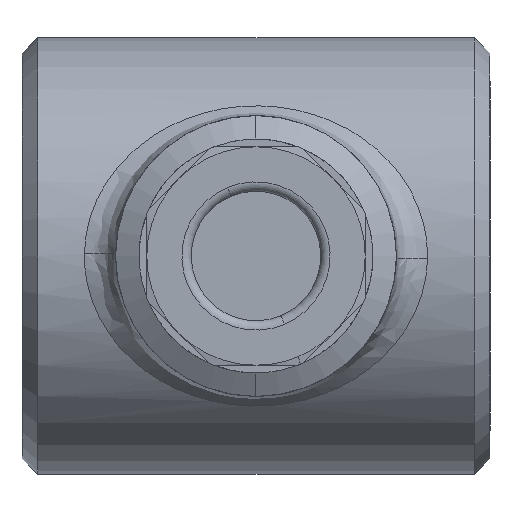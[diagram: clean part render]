
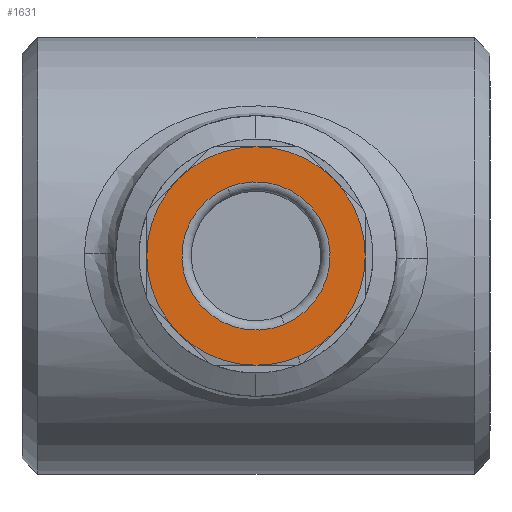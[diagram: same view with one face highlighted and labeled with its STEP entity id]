
A CAD part, left-side view. The second image highlights one B-rep face of the part: STEP entity #1631.
In plain terms, the highlighted planar face has unit normal (-1, 0, 0).
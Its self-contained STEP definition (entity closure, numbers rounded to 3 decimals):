
#222 = PLANE ( 'NONE',  #1791 ) ;
#229 = CARTESIAN_POINT ( 'NONE',  ( -21.5, 11.734, -1.339 ) ) ;
#230 = DIRECTION ( 'NONE',  ( -1., 0., 0. ) ) ;
#231 = DIRECTION ( 'NONE',  ( 0., 0.383, 0.924 ) ) ;
#658 = CARTESIAN_POINT ( 'NONE',  ( -21.5, 8.5, 0. ) ) ;
#660 = DIRECTION ( 'NONE',  ( 1., 0., 0. ) ) ;
#662 = DIRECTION ( 'NONE',  ( 0., -0.383, -0.924 ) ) ;
#666 = CARTESIAN_POINT ( 'NONE',  ( -21.5, 8.5, 0. ) ) ;
#668 = DIRECTION ( 'NONE',  ( 1., 0., 0. ) ) ;
#670 = DIRECTION ( 'NONE',  ( 0., -0.383, -0.924 ) ) ;
#682 = CARTESIAN_POINT ( 'NONE',  ( -21.5, 8.5, 0. ) ) ;
#684 = DIRECTION ( 'NONE',  ( 1., 0., 0. ) ) ;
#686 = DIRECTION ( 'NONE',  ( 0., -0.383, -0.924 ) ) ;
#700 = CARTESIAN_POINT ( 'NONE',  ( -21.5, 8.5, 0. ) ) ;
#702 = DIRECTION ( 'NONE',  ( 1., 0., 0. ) ) ;
#704 = DIRECTION ( 'NONE',  ( 0., -0.383, -0.924 ) ) ;
#727 = CARTESIAN_POINT ( 'NONE',  ( -21.5, 8.5, 0. ) ) ;
#729 = DIRECTION ( 'NONE',  ( 1., 0., 0. ) ) ;
#731 = DIRECTION ( 'NONE',  ( 0., -0.383, -0.924 ) ) ;
#992 = CARTESIAN_POINT ( 'NONE',  ( -21.5, 7.161, -3.234 ) ) ;
#1097 = CARTESIAN_POINT ( 'NONE',  ( -21.5, 9.409, 2.194 ) ) ;
#1105 = CARTESIAN_POINT ( 'NONE',  ( -21.5, 7.591, -2.194 ) ) ;
#1213 = CARTESIAN_POINT ( 'NONE',  ( -21.5, 8.5, 0. ) ) ;
#1215 = DIRECTION ( 'NONE',  ( 1., 0., 0. ) ) ;
#1217 = DIRECTION ( 'NONE',  ( 0., -0.383, -0.924 ) ) ;
#1221 = CARTESIAN_POINT ( 'NONE',  ( -21.5, 8.5, 0. ) ) ;
#1223 = DIRECTION ( 'NONE',  ( 1., 0., 0. ) ) ;
#1225 = DIRECTION ( 'NONE',  ( 0., -0.383, -0.924 ) ) ;
#1229 = CARTESIAN_POINT ( 'NONE',  ( -21.5, 8.5, 0. ) ) ;
#1231 = DIRECTION ( 'NONE',  ( 1., 0., 0. ) ) ;
#1234 = DIRECTION ( 'NONE',  ( 0., -0.383, -0.924 ) ) ;
#1250 = CARTESIAN_POINT ( 'NONE',  ( -21.5, 8.5, 0. ) ) ;
#1252 = DIRECTION ( 'NONE',  ( 1., 0., 0. ) ) ;
#1254 = DIRECTION ( 'NONE',  ( 0., -0.383, -0.924 ) ) ;
#1316 = CARTESIAN_POINT ( 'NONE',  ( -21.5, 8.5, 0. ) ) ;
#1318 = DIRECTION ( 'NONE',  ( 1., 0., 0. ) ) ;
#1320 = DIRECTION ( 'NONE',  ( 0., 0.383, 0.924 ) ) ;
#1631 = ADVANCED_FACE ( 'NONE', ( #4855, #4859 ), #222, .T. ) ;
#1707 = EDGE_CURVE ( 'NONE', #5648, #5667, #4931, .T. ) ;
#1708 = EDGE_CURVE ( 'NONE', #5667, #5666, #4944, .T. ) ;
#1710 = EDGE_CURVE ( 'NONE', #5666, #5661, #4945, .T. ) ;
#1712 = EDGE_CURVE ( 'NONE', #5661, #5660, #4947, .T. ) ;
#1716 = EDGE_CURVE ( 'NONE', #5417, #1909, #4950, .T. ) ;
#1791 = AXIS2_PLACEMENT_3D ( 'NONE', #229, #230, #231 ) ;
#1909 = VERTEX_POINT ( 'NONE', #992 ) ;
#2196 = ORIENTED_EDGE ( 'NONE', *, *, #4258, .T. ) ;
#2197 = ORIENTED_EDGE ( 'NONE', *, *, #5483, .T. ) ;
#2198 = ORIENTED_EDGE ( 'NONE', *, *, #4248, .F. ) ;
#2199 = ORIENTED_EDGE ( 'NONE', *, *, #4247, .F. ) ;
#2349 = CIRCLE ( 'NONE', #4822, 2.375 ) ;
#2419 = CARTESIAN_POINT ( 'NONE',  ( -21.5, 6.025, -2.475 ) ) ;
#2712 = CARTESIAN_POINT ( 'NONE',  ( -21.5, 8.5, 0. ) ) ;
#2713 = DIRECTION ( 'NONE',  ( 1., 0., 0. ) ) ;
#2714 = DIRECTION ( 'NONE',  ( 0., 0.383, 0.924 ) ) ;
#2794 = CARTESIAN_POINT ( 'NONE',  ( -21.5, 8.5, -3.5 ) ) ;
#2798 = CARTESIAN_POINT ( 'NONE',  ( -21.5, 10.975, -2.475 ) ) ;
#2806 = CARTESIAN_POINT ( 'NONE',  ( -21.5, 5., 0. ) ) ;
#2807 = CARTESIAN_POINT ( 'NONE',  ( -21.5, 6.025, 2.475 ) ) ;
#2808 = CARTESIAN_POINT ( 'NONE',  ( -21.5, 8.5, 3.5 ) ) ;
#2813 = CARTESIAN_POINT ( 'NONE',  ( -21.5, 10.975, 2.475 ) ) ;
#2814 = CARTESIAN_POINT ( 'NONE',  ( -21.5, 12., 0. ) ) ;
#3776 = ORIENTED_EDGE ( 'NONE', *, *, #1716, .F. ) ;
#3777 = ORIENTED_EDGE ( 'NONE', *, *, #4250, .F. ) ;
#3778 = ORIENTED_EDGE ( 'NONE', *, *, #4246, .F. ) ;
#3779 = ORIENTED_EDGE ( 'NONE', *, *, #1712, .F. ) ;
#3780 = ORIENTED_EDGE ( 'NONE', *, *, #1710, .F. ) ;
#3781 = ORIENTED_EDGE ( 'NONE', *, *, #1708, .F. ) ;
#3782 = ORIENTED_EDGE ( 'NONE', *, *, #1707, .F. ) ;
#3887 = EDGE_LOOP ( 'NONE', ( #2196, #2197 ) ) ;
#3915 = EDGE_LOOP ( 'NONE', ( #2198, #2199, #3776, #3777, #3778, #3779, #3780, #3781, #3782 ) ) ;
#3980 = VERTEX_POINT ( 'NONE', #1097 ) ;
#3988 = VERTEX_POINT ( 'NONE', #1105 ) ;
#4246 = EDGE_CURVE ( 'NONE', #5660, #5659, #5029, .T. ) ;
#4247 = EDGE_CURVE ( 'NONE', #1909, #5644, #5030, .T. ) ;
#4248 = EDGE_CURVE ( 'NONE', #5644, #5648, #5031, .T. ) ;
#4250 = EDGE_CURVE ( 'NONE', #5659, #5417, #5033, .T. ) ;
#4258 = EDGE_CURVE ( 'NONE', #3980, #3988, #5041, .T. ) ;
#4779 = AXIS2_PLACEMENT_3D ( 'NONE', #1316, #1318, #1320 ) ;
#4822 = AXIS2_PLACEMENT_3D ( 'NONE', #2712, #2713, #2714 ) ;
#4855 = FACE_BOUND ( 'NONE', #3887, .T. ) ;
#4859 = FACE_OUTER_BOUND ( 'NONE', #3915, .T. ) ;
#4931 = CIRCLE ( 'NONE', #5724, 3.5 ) ;
#4944 = CIRCLE ( 'NONE', #5725, 3.5 ) ;
#4945 = CIRCLE ( 'NONE', #5727, 3.5 ) ;
#4947 = CIRCLE ( 'NONE', #5729, 3.5 ) ;
#4950 = CIRCLE ( 'NONE', #5731, 3.5 ) ;
#5029 = CIRCLE ( 'NONE', #5761, 3.5 ) ;
#5030 = CIRCLE ( 'NONE', #5762, 3.5 ) ;
#5031 = CIRCLE ( 'NONE', #5763, 3.5 ) ;
#5033 = CIRCLE ( 'NONE', #5765, 3.5 ) ;
#5041 = CIRCLE ( 'NONE', #4779, 2.375 ) ;
#5417 = VERTEX_POINT ( 'NONE', #2419 ) ;
#5483 = EDGE_CURVE ( 'NONE', #3988, #3980, #2349, .T. ) ;
#5644 = VERTEX_POINT ( 'NONE', #2794 ) ;
#5648 = VERTEX_POINT ( 'NONE', #2798 ) ;
#5659 = VERTEX_POINT ( 'NONE', #2806 ) ;
#5660 = VERTEX_POINT ( 'NONE', #2807 ) ;
#5661 = VERTEX_POINT ( 'NONE', #2808 ) ;
#5666 = VERTEX_POINT ( 'NONE', #2813 ) ;
#5667 = VERTEX_POINT ( 'NONE', #2814 ) ;
#5724 = AXIS2_PLACEMENT_3D ( 'NONE', #658, #660, #662 ) ;
#5725 = AXIS2_PLACEMENT_3D ( 'NONE', #666, #668, #670 ) ;
#5727 = AXIS2_PLACEMENT_3D ( 'NONE', #682, #684, #686 ) ;
#5729 = AXIS2_PLACEMENT_3D ( 'NONE', #700, #702, #704 ) ;
#5731 = AXIS2_PLACEMENT_3D ( 'NONE', #727, #729, #731 ) ;
#5761 = AXIS2_PLACEMENT_3D ( 'NONE', #1213, #1215, #1217 ) ;
#5762 = AXIS2_PLACEMENT_3D ( 'NONE', #1221, #1223, #1225 ) ;
#5763 = AXIS2_PLACEMENT_3D ( 'NONE', #1229, #1231, #1234 ) ;
#5765 = AXIS2_PLACEMENT_3D ( 'NONE', #1250, #1252, #1254 ) ;
